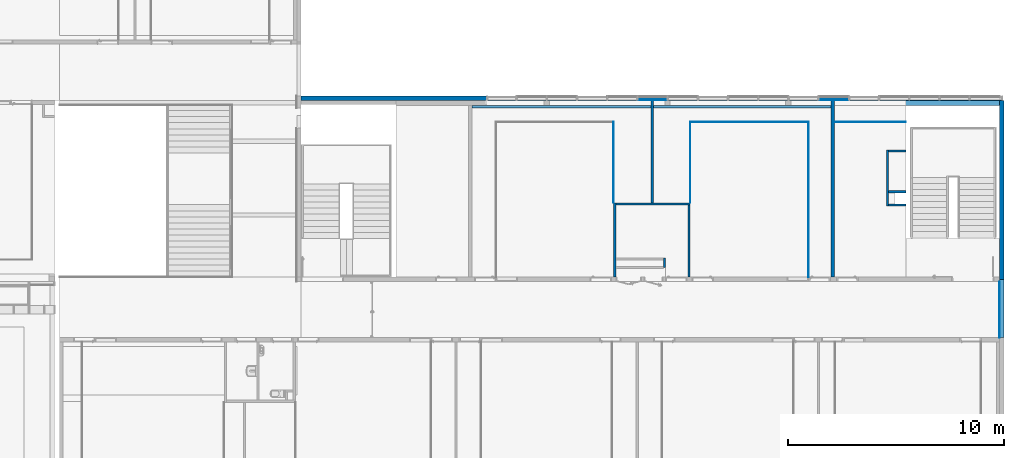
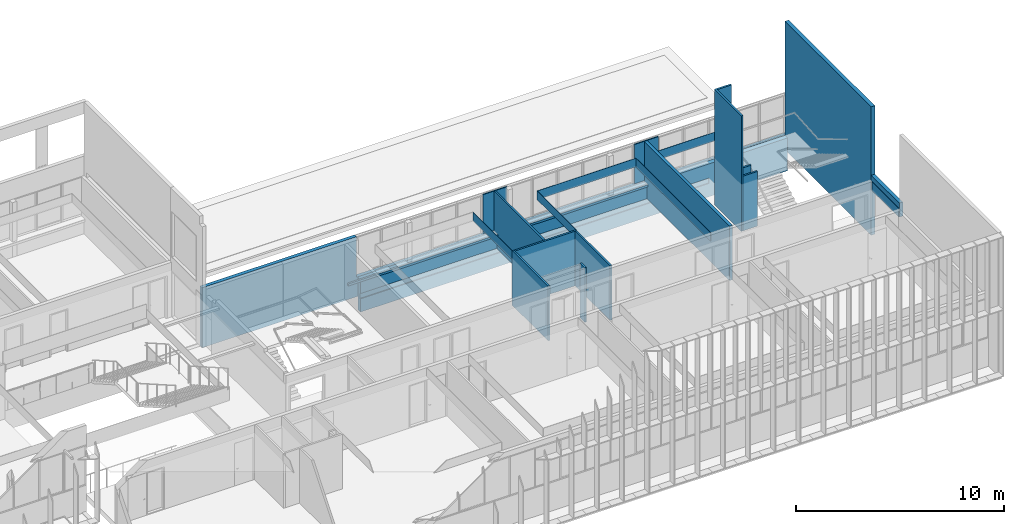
# One storey, part 90 of 106: 25 walls, 8 openings.
"""IFC2X3 building model written with IfcOpenShell, lengths in centimetres."""

from ifc_helpers import new_model, entity, si_unit, converted_unit, derived_unit, direction, frame, frame_2d, origin, place, context, subcontext, project, spatial, polyline, rectangle, extrude, clip, bounded_halfspace, material, layer, layer_set, layer_usage, type_object, element, save


model = new_model("IFC2X3")

# Units and contexts
model_context = context("Model", 3, precision=0.001, world=origin(), true_north=direction((6.12303176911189e-17, 1.0)))
body_context = subcontext(model_context, "Body", "Model", "MODEL_VIEW")
ifc_project = project(units=[si_unit("LENGTHUNIT", "METRE", prefix="CENTI"), si_unit("AREAUNIT", "SQUARE_METRE"), si_unit("VOLUMEUNIT", "CUBIC_METRE"), converted_unit("PLANEANGLEUNIT", "DEGREE", entity("IfcRatioMeasure", 0.0174532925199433), si_unit("PLANEANGLEUNIT", "RADIAN"), dimensions=[0, 0, 0, 0, 0, 0, 0]), si_unit("MASSUNIT", "GRAM", prefix="KILO"), derived_unit("MASSDENSITYUNIT", [(si_unit("MASSUNIT", "GRAM", prefix="KILO"), 1), (si_unit("LENGTHUNIT", "METRE"), -3)]), si_unit("TIMEUNIT", "SECOND"), si_unit("FREQUENCYUNIT", "HERTZ"), si_unit("THERMODYNAMICTEMPERATUREUNIT", "DEGREE_CELSIUS"), derived_unit("THERMALTRANSMITTANCEUNIT", [(si_unit("MASSUNIT", "GRAM", prefix="KILO"), 1), (si_unit("THERMODYNAMICTEMPERATUREUNIT", "KELVIN"), -1), (si_unit("TIMEUNIT", "SECOND"), -3)]), derived_unit("VOLUMETRICFLOWRATEUNIT", [(si_unit("LENGTHUNIT", "METRE"), 3), (si_unit("TIMEUNIT", "SECOND"), -1)]), si_unit("ELECTRICCURRENTUNIT", "AMPERE"), si_unit("ELECTRICVOLTAGEUNIT", "VOLT"), si_unit("POWERUNIT", "WATT"), si_unit("FORCEUNIT", "NEWTON", prefix="KILO"), si_unit("ILLUMINANCEUNIT", "LUX"), si_unit("LUMINOUSFLUXUNIT", "LUMEN"), si_unit("LUMINOUSINTENSITYUNIT", "CANDELA"), derived_unit("USERDEFINED", [(si_unit("MASSUNIT", "GRAM", prefix="KILO"), -1), (si_unit("LENGTHUNIT", "METRE"), -2), (si_unit("TIMEUNIT", "SECOND"), 3), (si_unit("LUMINOUSFLUXUNIT", "LUMEN"), 1)]), derived_unit("LINEARVELOCITYUNIT", [(si_unit("LENGTHUNIT", "METRE"), 1), (si_unit("TIMEUNIT", "SECOND"), -1)]), si_unit("PRESSUREUNIT", "PASCAL"), derived_unit("USERDEFINED", [(si_unit("LENGTHUNIT", "METRE"), -2), (si_unit("MASSUNIT", "GRAM", prefix="KILO"), 1), (si_unit("TIMEUNIT", "SECOND"), -2)])], contexts=[model_context])

# Site, building, storey
site_placement = place(None, frame((-2781.94577612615, 7442.24238424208, 0.0)))
site = spatial("IfcSite", under=ifc_project, at=site_placement, Name="Default", CompositionType="ELEMENT")
building_placement = place(site_placement, origin())
building = spatial("IfcBuilding", under=site, at=building_placement, CompositionType="ELEMENT")
storey_placement = place(building_placement, frame((0.0, 0.0, 422.0)))
storey = spatial("IfcBuildingStorey", under=building, at=storey_placement, Name="Toiture - Cuisine", CompositionType="ELEMENT", Elevation=421.999999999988)

# Wall, openings
ifc_material_1 = material(Name="01 - Maçonnerie")
ifc_layer_1 = layer(ifc_material_1, 25.0)
ifc_layer_set_1 = layer_set([ifc_layer_1], Name="Mur de base:04 - Structure - béton - 25cm")
ifc_layer_usage_1 = layer_usage(ifc_layer_set_1, "AXIS2", "NEGATIVE", 12.5)
wall_type_1 = type_object("IfcWallType", Name="Mur de base:04 - Structure - béton - 25cm", PredefinedType="STANDARD", material=ifc_layer_set_1)
wall_1_placement = place(building_placement, frame((-2788.29988284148, -1102.49999990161, 313.0)))
wall_1 = element("IfcWallStandardCase", 1, at=wall_1_placement, inside=storey, type_object=wall_type_1, material=ifc_layer_usage_1, Name="Mur de base:04 - Structure - béton - 25cm", ObjectType="Mur de base:04 - Structure - béton - 25cm", context=body_context, shape_type="SweptSolid", body=[
    extrude(rectangle(XDim=2373.3, YDim=24.9999999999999, at=frame_2d((1191.65, 1.77635683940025e-15), x_axis=(-1.0, 0.0))), origin(), (0.0, 0.0, 1.0), 192.5),
])
opening_1_placement = place(building_placement, frame((-2788.29988284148, -1102.49999990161, 313.0)))
element("IfcOpeningElement", 2, at=opening_1_placement, cuts=wall_1, Name="Mur de base:04 - Structure - béton - 25cm:1", ObjectType="Opening", context=body_context, shape_type="SweptSolid", body=[
    extrude(rectangle(XDim=5.00000000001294, YDim=1938.0, at=frame_2d((0.833333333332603, -254.999999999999), x_axis=(1.0, 0.0))), frame((719.0, -10.8333333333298, 78.0), z_axis=(0.0, 0.0, 1.0), x_axis=(0.0, 1.0, 0.0)), (0.0, 0.0, 1.0), 31.0),
])
opening_2_placement = place(wall_1_placement, origin())
element("IfcOpeningElement", 3, at=opening_2_placement, cuts=wall_1, Name="Mur de base:04 - Structure - béton - 25cm", ObjectType="Opening", context=body_context, shape_type="SweptSolid", body=[
    extrude(rectangle(XDim=237.5, YDim=2394.30000318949, at=frame_2d((4.9737991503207e-14, 0.0), x_axis=(1.0, 0.0))), frame((1196.15000156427, -27.74, 311.25), z_axis=(0.0, 1.0, 0.0), x_axis=(0.0, 0.0, 1.0)), (0.0, 0.0, 1.0), 55.4799999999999),
])

# Wall, opening
ifc_material_2 = material(Name="Aluminium bardage")
ifc_layer_2 = layer(ifc_material_2, 0.5)
ifc_material_3 = material(Name="01 - Lame d'air")
ifc_layer_3 = layer(ifc_material_3, 1.5)
ifc_material_4 = material(Name="00 - Isolant")
ifc_layer_4 = layer(ifc_material_4, 18.0)
ifc_layer_set_2 = layer_set([ifc_layer_2, ifc_layer_3, ifc_layer_4], Name="Mur de base:04 - Parement - ITE 18cm + vide 2cm")
ifc_layer_usage_2 = layer_usage(ifc_layer_set_2, "AXIS2", "NEGATIVE", 10.0)
wall_type_2 = type_object("IfcWallType", Name="Mur de base:04 - Parement - ITE 18cm + vide 2cm", PredefinedType="STANDARD", material=ifc_layer_set_2)
wall_2_placement = place(building_placement, frame((-3647.99987968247, -1080.0, 391.0)))
wall_2 = element("IfcWallStandardCase", 4, at=wall_2_placement, inside=storey, type_object=wall_type_2, material=ifc_layer_usage_2, Name="Mur de base:04 - Parement - ITE 18cm + vide 2cm", ObjectType="Mur de base:04 - Parement - ITE 18cm + vide 2cm", context=body_context, shape_type="SweptSolid", body=[
    extrude(rectangle(XDim=3252.99999999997, YDim=20.0000000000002, at=frame_2d((1626.49999999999, 6.3948846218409e-14), x_axis=(-1.0, 0.0))), origin(), (0.0, 0.0, 1.0), 352.0),
])
opening_3_placement = place(wall_2_placement, origin())
element("IfcOpeningElement", 5, at=opening_3_placement, cuts=wall_2, Name="Mur de base:04 - Parement - ITE 18cm + vide 2cm", ObjectType="Opening", context=body_context, shape_type="SweptSolid", body=[
    extrude(rectangle(XDim=237.5, YDim=2394.30000318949, at=frame_2d((4.9737991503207e-14, 0.0), x_axis=(1.0, 0.0))), frame((2055.84999840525, -25.2399999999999, 233.25), z_axis=(0.0, 1.0, 0.0), x_axis=(0.0, 0.0, 1.0)), (0.0, 0.0, 1.0), 50.48),
])

# Wall, openings
ifc_layer_5 = layer(ifc_material_1, 20.0)
ifc_layer_set_3 = layer_set([ifc_layer_5], Name="Mur de base:04 - Structure - béton - 20cm")
ifc_layer_usage_3 = layer_usage(ifc_layer_set_3, "AXIS2", "NEGATIVE", 10.0)
wall_type_3 = type_object("IfcWallType", Name="Mur de base:04 - Structure - béton - 20cm", PredefinedType="STANDARD", material=ifc_layer_set_3)
wall_3_placement = place(building_placement, frame((-399.999882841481, -1090.0, 422.0), z_axis=(0.0, 0.0, 1.0), x_axis=(0.0, -1.0, 0.0)))
wall_3 = element("IfcWallStandardCase", 6, at=wall_3_placement, inside=storey, type_object=wall_type_3, material=ifc_layer_usage_3, Name="Mur de base:04 - Structure - béton - 20cm", ObjectType="Mur de base:04 - Structure - béton - 20cm", context=body_context, shape_type="SweptSolid", body=[
    extrude(rectangle(XDim=830.079033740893, YDim=20.0, at=frame_2d((415.039516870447, 0.0), x_axis=(-1.0, 0.0))), origin(), (0.0, 0.0, 1.0), 754.000000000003),
])
opening_4_placement = place(wall_3_placement, origin())
element("IfcOpeningElement", 7, at=opening_4_placement, cuts=wall_3, Name="Mur de base:04 - Structure - béton - 20cm", ObjectType="Opening", context=body_context, shape_type="SweptSolid", body=[
    extrude(rectangle(XDim=270.0, YDim=260.077533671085, at=frame_2d((-9.9475983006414e-14, 4.2632564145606e-14), x_axis=(0.0, 1.0))), frame((970.117800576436, -142.400000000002, 135.0), z_axis=(0.0, 1.0, 0.0), x_axis=(-1.0, 0.0, 0.0)), (0.0, 0.0, 1.0), 304.8),
])
opening_5_placement = place(wall_3_placement, origin())
element("IfcOpeningElement", 8, at=opening_5_placement, cuts=wall_3, Name="Mur de base:04 - Structure - béton - 20cm", ObjectType="Opening", context=body_context, shape_type="SweptSolid", body=[
    extrude(rectangle(XDim=270.0, YDim=260.0, at=frame_2d((0.0, 1.13686837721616e-13), x_axis=(1.0, 0.0))), frame((970.079033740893, -142.4, 487.0), z_axis=(0.0, 1.0, 0.0), x_axis=(0.0, 0.0, 1.0)), (0.0, 0.0, 1.0), 304.8),
])

ifc_layer_usage_4 = layer_usage(ifc_layer_set_3, "AXIS2", "NEGATIVE", 10.0)
wall_4_placement = place(building_placement, frame((-399.999882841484, -2190.07903364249, 692.0), z_axis=(0.0, 0.0, 1.0), x_axis=(0.0, 1.0, 0.0)))
wall_4 = element("IfcWallStandardCase", 9, at=wall_4_placement, inside=storey, type_object=wall_type_3, material=ifc_layer_usage_4, Name="Mur de base:04 - Structure - béton - 20cm", ObjectType="Mur de base:04 - Structure - béton - 20cm", context=body_context, shape_type="Clipping", body=[
    clip(extrude(rectangle(XDim=270.000000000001, YDim=20.0, at=frame_2d((135.0, 8.88178419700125e-15), x_axis=(-1.0, 0.0))), origin(), (0.0, 0.0, 1.0), 82.0000000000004), bounded_halfspace(frame((0.0, -10.0, 0.0), z_axis=(1.0, 0.0, 0.0), x_axis=(0.0, 1.0, 0.0)), True, frame((0.0, -10.0, 0.0), z_axis=(1.0, 0.0, 0.0), x_axis=(0.0, 1.0, 0.0)), polyline([(0.0, 0.0), (20.0, 0.0), (20.0, 82.0), (0.0, 82.0), (0.0, 0.0)]))),
])
opening_6_placement = place(wall_4_placement, origin())
element("IfcOpeningElement", 10, at=opening_6_placement, cuts=wall_4, Name="Mur de base:04 - Structure - béton - 20cm", ObjectType="Opening", context=body_context, shape_type="SweptSolid", body=[
    extrude(rectangle(XDim=270.0, YDim=260.0, at=frame_2d((2.27373675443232e-13, 0.0), x_axis=(0.0, 1.0))), frame((130.0, -162.400000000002, 217.0), z_axis=(0.0, 1.0, 0.0), x_axis=(-1.0, 0.0, 0.0)), (0.0, 0.0, 1.0), 304.8),
])
opening_7_placement = place(wall_4_placement, frame((-0.0775336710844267, -10.0, -270.0)))
element("IfcOpeningElement", 11, at=opening_7_placement, cuts=wall_4, Name="châssis intérieur vitré:R+1 - Pignon -  châssis intérieur vitré (2,70m):1", ObjectType="Opening", context=body_context, shape_type="SweptSolid", body=[
    extrude(rectangle(XDim=270.0, YDim=260.077533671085, at=frame_2d((135.0, 130.038766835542), x_axis=(1.0, 0.0))), frame((0.0, 0.0, 0.0), z_axis=(0.0, 1.0, 0.0), x_axis=(0.0, 0.0, 1.0)), (0.0, 0.0, 1.0), 20.0),
])

# Walls
ifc_material_5 = material(Name="01 - Enduit/Plâtre")
ifc_layer_6 = layer(ifc_material_5, 1.3)
ifc_layer_7 = layer(ifc_material_4, 7.4)
ifc_layer_8 = layer(ifc_material_5, 1.3)
ifc_layer_set_4 = layer_set([ifc_layer_6, ifc_layer_7, ifc_layer_8], Name="Mur de base:06 - cloisons - Ba13 10cm")
ifc_layer_usage_5 = layer_usage(ifc_layer_set_4, "AXIS2", "NEGATIVE", 5.0)
wall_type_4 = type_object("IfcWallType", Name="Mur de base:06 - cloisons - Ba13 10cm", PredefinedType="STANDARD", material=ifc_layer_set_4)
wall_5_placement = place(building_placement, frame((-2194.49988284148, -1910.07903364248, 422.0), z_axis=(0.0, 0.0, 1.0), x_axis=(0.0, 1.0, 0.0)))
element("IfcWallStandardCase", 12, at=wall_5_placement, inside=storey, type_object=wall_type_4, material=ifc_layer_usage_5, Name="Mur de base:06 - cloisons - Ba13 10cm", ObjectType="Mur de base:06 - cloisons - Ba13 10cm", context=body_context, shape_type="Clipping", body=[
    clip(extrude(rectangle(XDim=344.999999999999, YDim=10.0000000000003, at=frame_2d((172.5, 0.0), x_axis=(-1.0, 0.0))), origin(), (0.0, 0.0, 1.0), 321.0), bounded_halfspace(frame((0.0, -5.0, 321.0), z_axis=(0.0, 0.0, -1.0), x_axis=(1.0, 0.0, 0.0)), True, frame((0.0, -5.0, 321.0)), polyline([(0.0, 0.0), (39.829629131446, 0.0), (49.8296291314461, 0.0), (80.0, 0.0), (90.0, 0.0), (335.0, 0.0), (345.0, 0.0), (345.0, 10.0), (0.0, 10.0), (0.0, 0.0)]))),
])
ifc_layer_usage_6 = layer_usage(ifc_layer_set_4, "AXIS2", "NEGATIVE", 5.0)
wall_6_placement = place(building_placement, frame((-2189.49988284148, -1570.07903364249, 422.0)))
element("IfcWallStandardCase", 13, at=wall_6_placement, inside=storey, type_object=wall_type_4, material=ifc_layer_usage_6, Name="Mur de base:06 - cloisons - Ba13 10cm", ObjectType="Mur de base:06 - cloisons - Ba13 10cm", context=body_context, shape_type="Clipping", body=[
    clip(extrude(rectangle(XDim=344.0, YDim=9.99999999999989, at=frame_2d((172.0, 0.0), x_axis=(-1.0, 0.0))), origin(), (0.0, 0.0, 1.0), 321.0), bounded_halfspace(frame((0.0, -5.0, 321.0), z_axis=(0.0, 0.0, -1.0), x_axis=(0.0, 1.0, 0.0)), True, frame((0.0, -5.0, 321.0)), polyline([(0.0, 0.0), (334.0, 0.0), (344.0, 0.0), (344.0, 10.0), (174.2, 10.0), (164.2, 10.0), (0.0, 10.0), (0.0, 0.0)]))),
])
ifc_layer_usage_7 = layer_usage(ifc_layer_set_4, "AXIS2", "NEGATIVE", 5.0)
wall_7_placement = place(building_placement, frame((-1850.49988284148, -1575.07903364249, 422.0), z_axis=(0.0, 0.0, 1.0), x_axis=(0.0, -1.0, 0.0)))
element("IfcWallStandardCase", 14, at=wall_7_placement, inside=storey, type_object=wall_type_4, material=ifc_layer_usage_7, Name="Mur de base:06 - cloisons - Ba13 10cm", ObjectType="Mur de base:06 - cloisons - Ba13 10cm", context=body_context, shape_type="Clipping", body=[
    clip(extrude(rectangle(XDim=335.0, YDim=9.99999999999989, at=frame_2d((167.5, -2.22044604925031e-14), x_axis=(-1.0, 0.0))), origin(), (0.0, 0.0, 1.0), 321.0), bounded_halfspace(frame((0.0, -5.0, 321.0), z_axis=(0.0, 0.0, -1.0), x_axis=(-1.0, 0.0, 0.0)), True, frame((0.0, -5.0, 321.0)), polyline([(0.0, 0.0), (335.0, 0.0), (335.0, 10.0), (0.0, 10.0), (0.0, 0.0)]))),
])
ifc_layer_usage_8 = layer_usage(ifc_layer_set_4, "AXIS2", "NEGATIVE", 5.0)
wall_8_placement = place(building_placement, frame((-2020.29988284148, -1565.07903364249, 422.0), z_axis=(0.0, 0.0, 1.0), x_axis=(0.0, 1.0, 0.0)))
element("IfcWallStandardCase", 15, at=wall_8_placement, inside=storey, type_object=wall_type_4, material=ifc_layer_usage_8, Name="Mur de base:06 - cloisons - Ba13 10cm", ObjectType="Mur de base:06 - cloisons - Ba13 10cm", context=body_context, shape_type="Clipping", body=[
    clip(extrude(rectangle(XDim=475.079033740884, YDim=10.0000000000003, at=frame_2d((237.539516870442, -6.57252030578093e-14), x_axis=(-1.0, 0.0))), origin(), (0.0, 0.0, 1.0), 321.0), bounded_halfspace(frame((0.0, -5.0, 321.0), z_axis=(0.0, 0.0, -1.0), x_axis=(1.0, 0.0, 0.0)), True, frame((0.0, -5.0, 321.0)), polyline([(0.0, 0.0), (455.079033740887, 0.0), (455.079033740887, 10.0), (0.0, 10.0), (0.0, 0.0)]))),
])
ifc_layer_usage_9 = layer_usage(ifc_layer_set_4, "AXIS2", "NEGATIVE", 5.0)
wall_9_placement = place(building_placement, frame((-930.299882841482, -1580.07903364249, 422.0), z_axis=(0.0, 0.0, 1.0), x_axis=(0.0, 1.0, 0.0)))
element("IfcWallStandardCase", 16, at=wall_9_placement, inside=storey, type_object=wall_type_4, material=ifc_layer_usage_9, Name="Mur de base:06 - cloisons - Ba13 10cm", ObjectType="Mur de base:06 - cloisons - Ba13 10cm", context=body_context, shape_type="SweptSolid", body=[
    extrude(rectangle(XDim=260.0, YDim=10.0, at=frame_2d((130.0, 5.41788836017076e-14), x_axis=(-1.0, 0.0))), origin(), (0.0, 0.0, 1.0), 678.0),
])
ifc_layer_usage_10 = layer_usage(ifc_layer_set_4, "AXIS2", "NEGATIVE", 5.0)
wall_10_placement = place(building_placement, frame((-925.299882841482, -1325.07903364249, 422.0)))
element("IfcWallStandardCase", 17, at=wall_10_placement, inside=storey, type_object=wall_type_4, material=ifc_layer_usage_10, Name="Mur de base:06 - cloisons - Ba13 10cm", ObjectType="Mur de base:06 - cloisons - Ba13 10cm", context=body_context, shape_type="SweptSolid", body=[
    extrude(rectangle(XDim=80.0000000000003, YDim=9.99999999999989, at=frame_2d((40.0000000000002, -2.1316282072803e-14), x_axis=(-1.0, 0.0))), origin(), (0.0, 0.0, 1.0), 678.0),
])
ifc_layer_usage_11 = layer_usage(ifc_layer_set_4, "AXIS2", "NEGATIVE", 5.0)
wall_11_placement = place(building_placement, frame((-1964.49988284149, -1865.07903364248, 422.0), z_axis=(0.0, 0.0, 1.0), x_axis=(0.0, 1.0, 0.0)))
element("IfcWallStandardCase", 18, at=wall_11_placement, inside=storey, type_object=wall_type_4, material=ifc_layer_usage_11, Name="Mur de base:06 - cloisons - Ba13 10cm", ObjectType="Mur de base:06 - cloisons - Ba13 10cm", context=body_context, shape_type="Clipping", body=[
    clip(extrude(rectangle(XDim=45.0000000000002, YDim=10.0000000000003, at=frame_2d((22.5000000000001, -1.32338584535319e-13), x_axis=(-1.0, 0.0))), origin(), (0.0, 0.0, 1.0), 321.0), bounded_halfspace(frame((0.0, -5.0, 321.0), z_axis=(0.0, 0.0, -1.0), x_axis=(1.0, 0.0, 0.0)), True, frame((0.0, -5.0, 321.0)), polyline([(0.0, 0.0), (45.0, 0.0), (45.0, 10.0), (35.0, 10.0), (4.82962913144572, 10.0), (0.0, 10.0), (0.0, 0.0)]))),
])
ifc_layer_usage_12 = layer_usage(ifc_layer_set_4, "AXIS2", "NEGATIVE", 5.0)
wall_12_placement = place(building_placement, frame((-925.299882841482, -1514.0, 422.0)))
element("IfcWallStandardCase", 19, at=wall_12_placement, inside=storey, type_object=wall_type_4, material=ifc_layer_usage_12, Name="Mur de base:06 - cloisons - Ba13 10cm", ObjectType="Mur de base:06 - cloisons - Ba13 10cm", context=body_context, shape_type="SweptSolid", body=[
    extrude(rectangle(XDim=80.0, YDim=9.99999999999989, at=frame_2d((40.0, 0.0), x_axis=(-1.0, 0.0))), origin(), (0.0, 0.0, 1.0), 321.0),
])
ifc_layer_usage_13 = layer_usage(ifc_layer_set_4, "AXIS2", "NEGATIVE", 5.0)
wall_13_placement = place(building_placement, frame((-925.299882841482, -1575.07903364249, 422.0)))
element("IfcWallStandardCase", 20, at=wall_13_placement, inside=storey, type_object=wall_type_4, material=ifc_layer_usage_13, Name="Mur de base:06 - cloisons - Ba13 10cm", ObjectType="Mur de base:06 - cloisons - Ba13 10cm", context=body_context, shape_type="Clipping", body=[
    clip(extrude(rectangle(XDim=79.9999999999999, YDim=9.99999999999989, at=frame_2d((40.0, -6.21724893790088e-15), x_axis=(-1.0, 0.0))), origin(), (0.0, 0.0, 1.0), 321.0), bounded_halfspace(frame((0.0, -5.0, 321.0), z_axis=(0.0, 0.0, -1.0), x_axis=(0.0, 1.0, 0.0)), True, frame((0.0, -5.0, 321.0)), polyline([(0.0, 0.0), (80.0, 0.0), (80.0, 10.0), (0.0, 10.0), (0.0, 0.0)]))),
])
ifc_layer_9 = layer(ifc_material_5, 1.3)
ifc_material_6 = material(Name="00 - VIDE D'AIR")
ifc_layer_10 = layer(ifc_material_6, 0.7)
ifc_layer_set_5 = layer_set([ifc_layer_9, ifc_layer_10], Name="Mur de base:06 - habillage Ba13 collée 2cm")
ifc_layer_usage_14 = layer_usage(ifc_layer_set_5, "AXIS2", "NEGATIVE", 1.0)
wall_type_5 = type_object("IfcWallType", Name="Mur de base:06 - habillage Ba13 collée 2cm", PredefinedType="STANDARD", material=ifc_layer_set_5)
wall_14_placement = place(building_placement, frame((-410.999882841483, -1930.07903364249, 692.0), z_axis=(0.0, 0.0, 1.0), x_axis=(0.0, -1.0, 0.0)))
element("IfcWallStandardCase", 21, at=wall_14_placement, inside=storey, type_object=wall_type_5, material=ifc_layer_usage_14, Name="Mur de base:06 - habillage Ba13 collée 2cm", ObjectType="Mur de base:06 - habillage Ba13 collée 2cm", context=body_context, shape_type="SweptSolid", body=[
    extrude(rectangle(XDim=260.077533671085, YDim=1.99999999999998, at=frame_2d((130.038766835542, 0.0), x_axis=(-1.0, 0.0))), origin(), (0.0, 0.0, 1.0), 50.9999999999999),
])
ifc_layer_usage_15 = layer_usage(ifc_layer_set_5, "AXIS2", "NEGATIVE", 1.0)
wall_15_placement = place(building_placement, frame((-1845.49988284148, -1191.0, 692.0)))
element("IfcWallStandardCase", 22, at=wall_15_placement, inside=storey, type_object=wall_type_5, material=ifc_layer_usage_15, Name="Mur de base:06 - habillage Ba13 collée 2cm", ObjectType="Mur de base:06 - habillage Ba13 collée 2cm", context=body_context, shape_type="Clipping", body=[
    clip(extrude(rectangle(XDim=548.2, YDim=1.99999999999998, at=frame_2d((274.1, -8.77076189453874e-15), x_axis=(-1.0, 0.0))), origin(), (0.0, 0.0, 1.0), 50.9999999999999), bounded_halfspace(frame((0.0, -1.0, 51.0), z_axis=(0.0, 0.0, -1.0), x_axis=(0.0, 1.0, 0.0)), True, frame((0.0, -1.0, 51.0)), polyline([(0.0, 0.0), (2.0, 0.0), (548.2, 0.0), (548.2, 2.0), (0.0, 2.0), (0.0, 0.0)]))),
])
ifc_layer_usage_16 = layer_usage(ifc_layer_set_5, "AXIS2", "NEGATIVE", 1.0)
wall_16_placement = place(building_placement, frame((-1296.29988284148, -1190.0, 692.0), z_axis=(0.0, 0.0, 1.0), x_axis=(0.0, -1.0, 0.0)))
element("IfcWallStandardCase", 23, at=wall_16_placement, inside=storey, type_object=wall_type_5, material=ifc_layer_usage_16, Name="Mur de base:06 - habillage Ba13 collée 2cm", ObjectType="Mur de base:06 - habillage Ba13 collée 2cm", context=body_context, shape_type="Clipping", body=[
    clip(extrude(rectangle(XDim=720.079033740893, YDim=1.99999999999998, at=frame_2d((360.039516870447, 8.49875725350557e-14), x_axis=(-1.0, 0.0))), origin(), (0.0, 0.0, 1.0), 50.9999999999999), bounded_halfspace(frame((0.0, -1.0, 51.0), z_axis=(0.0, 0.0, -1.0), x_axis=(-1.0, 0.0, 0.0)), True, frame((0.0, -1.0, 51.0)), polyline([(0.0, 0.0), (2.0, 0.0), (720.079033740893, 0.0), (720.079033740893, 2.0), (0.0, 2.0), (0.0, 0.0)]))),
])
ifc_layer_usage_17 = layer_usage(ifc_layer_set_5, "AXIS2", "NEGATIVE", 1.0)
wall_17_placement = place(building_placement, frame((-1844.49988284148, -1565.0, 692.0), z_axis=(0.0, 0.0, 1.0), x_axis=(0.0, 1.0, 0.0)))
element("IfcWallStandardCase", 24, at=wall_17_placement, inside=storey, type_object=wall_type_5, material=ifc_layer_usage_17, Name="Mur de base:06 - habillage Ba13 collée 2cm", ObjectType="Mur de base:06 - habillage Ba13 collée 2cm", context=body_context, shape_type="Clipping", body=[
    clip(extrude(rectangle(XDim=373.00000000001, YDim=1.99999999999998, at=frame_2d((186.500000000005, -7.16093850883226e-14), x_axis=(-1.0, 0.0))), origin(), (0.0, 0.0, 1.0), 50.9999999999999), bounded_halfspace(frame((0.0, -1.0, 51.0), z_axis=(0.0, 0.0, -1.0), x_axis=(1.0, 0.0, 0.0)), True, frame((0.0, -1.0, 51.0)), polyline([(0.0, 0.0), (373.0, 0.0), (373.0, 2.0), (0.0, 2.0), (0.0, 0.0)]))),
])
ifc_layer_usage_18 = layer_usage(ifc_layer_set_5, "AXIS2", "NEGATIVE", 1.0)
wall_18_placement = place(building_placement, frame((-2200.49988284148, -1190.0, 692.0), z_axis=(0.0, 0.0, 1.0), x_axis=(0.0, -1.0, 0.0)))
element("IfcWallStandardCase", 25, at=wall_18_placement, inside=storey, type_object=wall_type_5, material=ifc_layer_usage_18, Name="Mur de base:06 - habillage Ba13 collée 2cm", ObjectType="Mur de base:06 - habillage Ba13 collée 2cm", context=body_context, shape_type="Clipping", body=[
    clip(extrude(rectangle(XDim=375.079033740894, YDim=2.00000000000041, at=frame_2d((187.539516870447, 2.33146835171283e-15), x_axis=(-1.0, 0.0))), origin(), (0.0, 0.0, 1.0), 50.9999999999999), bounded_halfspace(frame((0.0, -1.0, 51.0), z_axis=(0.0, 0.0, -1.0), x_axis=(-1.0, 0.0, 0.0)), True, frame((0.0, -1.0, 51.0)), polyline([(0.0, 0.0), (2.0, 0.0), (375.079033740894, 0.0), (375.079033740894, 2.0), (0.0, 2.0), (0.0, 0.0)]))),
])
ifc_layer_usage_19 = layer_usage(ifc_layer_set_5, "AXIS2", "NEGATIVE", 1.0)
wall_19_placement = place(building_placement, frame((-1175.29988284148, -1191.0, 692.0)))
element("IfcWallStandardCase", 26, at=wall_19_placement, inside=storey, type_object=wall_type_5, material=ifc_layer_usage_19, Name="Mur de base:06 - habillage Ba13 collée 2cm", ObjectType="Mur de base:06 - habillage Ba13 collée 2cm", context=body_context, shape_type="Clipping", body=[
    clip(extrude(rectangle(XDim=330.0, YDim=1.99999999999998, at=frame_2d((165.0, -2.52575738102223e-14), x_axis=(-1.0, 0.0))), origin(), (0.0, 0.0, 1.0), 50.9999999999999), bounded_halfspace(frame((0.0, -1.0, 51.0), z_axis=(0.0, 0.0, -1.0), x_axis=(0.0, 1.0, 0.0)), True, frame((0.0, -1.0, 51.0)), polyline([(0.0, 0.0), (330.0, 0.0), (330.0, 2.0), (0.0, 2.0), (0.0, 0.0)]))),
])
ifc_layer_11 = layer(ifc_material_5, 1.3)
ifc_layer_12 = layer(ifc_material_4, 13.4)
ifc_layer_13 = layer(ifc_material_5, 1.3)
ifc_layer_set_6 = layer_set([ifc_layer_11, ifc_layer_12, ifc_layer_13], Name="Mur de base:06 - cloisons - Ba13 16cm")
ifc_layer_usage_20 = layer_usage(ifc_layer_set_6, "AXIS2", "NEGATIVE", 8.0)
wall_type_6 = type_object("IfcWallType", Name="Mur de base:06 - cloisons - Ba13 16cm", PredefinedType="STANDARD", material=ifc_layer_set_6)
wall_20_placement = place(building_placement, frame((-1183.29988284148, -1090.0, 422.0), z_axis=(0.0, 0.0, 1.0), x_axis=(0.0, -1.0, 0.0)))
element("IfcWallStandardCase", 27, at=wall_20_placement, inside=storey, type_object=wall_type_6, material=ifc_layer_usage_20, Name="Mur de base:06 - cloisons - Ba13 16cm", ObjectType="Mur de base:06 - cloisons - Ba13 16cm", context=body_context, shape_type="Clipping", body=[
    clip(extrude(rectangle(XDim=820.079033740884, YDim=15.9999999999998, at=frame_2d((410.039516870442, 1.59872115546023e-14), x_axis=(-1.0, 0.0))), origin(), (0.0, 0.0, 1.0), 321.0), bounded_halfspace(frame((20.0, -8.0, 321.0), z_axis=(0.0, 0.0, -1.0), x_axis=(-1.0, 0.0, 0.0)), True, frame((20.0, -8.0, 321.0)), polyline([(0.0, 0.0), (800.079033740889, 0.0), (800.079033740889, 16.0), (82.0, 16.0), (80.0, 16.0), (0.0, 16.0), (0.0, 0.0)]))),
])
ifc_material_7 = material(Name="Métal déployé")
ifc_layer_14 = layer(ifc_material_7, 0.3)
ifc_material_8 = material(Name="Métal - Alu brossé")
ifc_layer_15 = layer(ifc_material_8, 1.7)
ifc_layer_set_7 = layer_set([ifc_layer_14, ifc_layer_15], Name="Mur de base:07 -Tôle alu sur CP")
ifc_layer_usage_21 = layer_usage(ifc_layer_set_7, "AXIS2", "NEGATIVE", 1.0)
wall_type_7 = type_object("IfcWallType", Name="Mur de base:07 -Tôle alu sur CP", PredefinedType="STANDARD", material=ifc_layer_set_7)
wall_21_placement = place(building_placement, frame((-1952.54988284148, -1088.0999999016, 512.0), z_axis=(0.0, 0.0, 1.0), x_axis=(-1.0, 0.0, 0.0)))
element("IfcWallStandardCase", 28, at=wall_21_placement, inside=storey, type_object=wall_type_7, material=ifc_layer_usage_21, Name="Mur de base:07 -Tôle alu sur CP", ObjectType="Mur de base:07 -Tôle alu sur CP", context=body_context, shape_type="SweptSolid", body=[
    extrude(rectangle(XDim=133.5, YDim=1.99999999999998, at=frame_2d((66.75, -8.32667268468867e-16), x_axis=(-1.0, 0.0))), origin(), (0.0, 0.0, 1.0), 231.0),
])
ifc_layer_usage_22 = layer_usage(ifc_layer_set_7, "AXIS2", "NEGATIVE", 1.0)
wall_22_placement = place(building_placement, frame((-1112.54988284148, -1088.0999999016, 512.0), z_axis=(0.0, 0.0, 1.0), x_axis=(-1.0, 0.0, 0.0)))
element("IfcWallStandardCase", 29, at=wall_22_placement, inside=storey, type_object=wall_type_7, material=ifc_layer_usage_22, Name="Mur de base:07 -Tôle alu sur CP", ObjectType="Mur de base:07 -Tôle alu sur CP", context=body_context, shape_type="SweptSolid", body=[
    extrude(rectangle(XDim=133.5, YDim=1.99999999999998, at=frame_2d((66.75, -8.32667268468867e-16), x_axis=(-1.0, 0.0))), origin(), (0.0, 0.0, 1.0), 231.0),
])
ifc_layer_16 = layer(ifc_material_7, 0.3)
ifc_material_9 = material(Name="00 - Isolant polystyrène")
ifc_layer_17 = layer(ifc_material_9, 4.0)
ifc_layer_set_8 = layer_set([ifc_layer_16, ifc_layer_17], Name="Mur de base:07 -Tôle alu Shadowbox")
ifc_layer_usage_23 = layer_usage(ifc_layer_set_8, "AXIS2", "POSITIVE", -2.15)
wall_type_8 = type_object("IfcWallType", Name="Mur de base:07 -Tôle alu Shadowbox", PredefinedType="STANDARD", material=ifc_layer_set_8)
wall_23_placement = place(building_placement, frame((-1952.54988284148, -1084.9499999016, 512.618750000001), z_axis=(0.0, 0.0, 1.0), x_axis=(-1.0, 0.0, 0.0)))
element("IfcWallStandardCase", 30, at=wall_23_placement, inside=storey, type_object=wall_type_8, material=ifc_layer_usage_23, Name="Mur de base:07 -Tôle alu Shadowbox", ObjectType="Mur de base:07 -Tôle alu Shadowbox", context=body_context, shape_type="SweptSolid", body=[
    extrude(rectangle(XDim=133.5, YDim=4.29999999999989, at=frame_2d((66.75, -8.88178419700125e-16), x_axis=(-1.0, 0.0))), origin(), (0.0, 0.0, 1.0), 230.381249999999),
])
ifc_layer_usage_24 = layer_usage(ifc_layer_set_8, "AXIS2", "POSITIVE", -2.15)
wall_24_placement = place(building_placement, frame((-1112.54988284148, -1084.9499999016, 512.618750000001), z_axis=(0.0, 0.0, 1.0), x_axis=(-1.0, 0.0, 0.0)))
element("IfcWallStandardCase", 31, at=wall_24_placement, inside=storey, type_object=wall_type_8, material=ifc_layer_usage_24, Name="Mur de base:07 -Tôle alu Shadowbox", ObjectType="Mur de base:07 -Tôle alu Shadowbox", context=body_context, shape_type="SweptSolid", body=[
    extrude(rectangle(XDim=133.5, YDim=4.29999999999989, at=frame_2d((66.75, -8.88178419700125e-16), x_axis=(-1.0, 0.0))), origin(), (0.0, 0.0, 1.0), 230.381249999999),
])

# Wall, opening
ifc_material_10 = material(Name="Pin")
ifc_layer_18 = layer(ifc_material_10, 2.0)
ifc_material_11 = material(Name="Mur par défaut")
ifc_layer_19 = layer(ifc_material_11, 8.0)
ifc_layer_set_9 = layer_set([ifc_layer_18, ifc_layer_19], Name="Mur de base:06 - cimaise R+2")
ifc_layer_usage_25 = layer_usage(ifc_layer_set_9, "AXIS2", "NEGATIVE", 5.0)
wall_type_9 = type_object("IfcWallType", Name="Mur de base:06 - cimaise R+2", PredefinedType="STANDARD", material=ifc_layer_set_9)
wall_25_placement = place(building_placement, frame((-1191.29988284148, -1120.0, 497.392132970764), z_axis=(0.0, 0.0, 1.0), x_axis=(-1.0, 0.0, 0.0)))
wall_25 = element("IfcWallStandardCase", 32, at=wall_25_placement, inside=storey, type_object=wall_type_9, material=ifc_layer_usage_25, Name="Mur de base:06 - cimaise R+2", ObjectType="Mur de base:06 - cimaise R+2", context=body_context, shape_type="SweptSolid", body=[
    extrude(rectangle(XDim=1664.0, YDim=9.99999999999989, at=frame_2d((832.000000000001, -1.90958360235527e-14), x_axis=(-1.0, 0.0))), origin(), (0.0, 0.0, 1.0), 12.6078670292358),
])
opening_8_placement = place(building_placement, frame((-1191.29988284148, -1120.0, 497.392132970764), z_axis=(0.0, 0.0, 1.0), x_axis=(-1.0, 0.0, 0.0)))
element("IfcOpeningElement", 33, at=opening_8_placement, cuts=wall_25, Name="Mur de base:06 - cimaise R+2:1", ObjectType="Opening", context=body_context, shape_type="SweptSolid", body=[
    extrude(rectangle(XDim=12.6078670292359, YDim=9.99999999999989, at=frame_2d((5.41788836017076e-14, -1.08357767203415e-13), x_axis=(1.0, 0.0))), frame((834.0, 0.0, 6.30393351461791), z_axis=(-1.0, 0.0, 0.0), x_axis=(0.0, 0.0, 1.0)), (0.0, 0.0, 1.0), 9.99999999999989),
])

save(model, "model.ifc")
